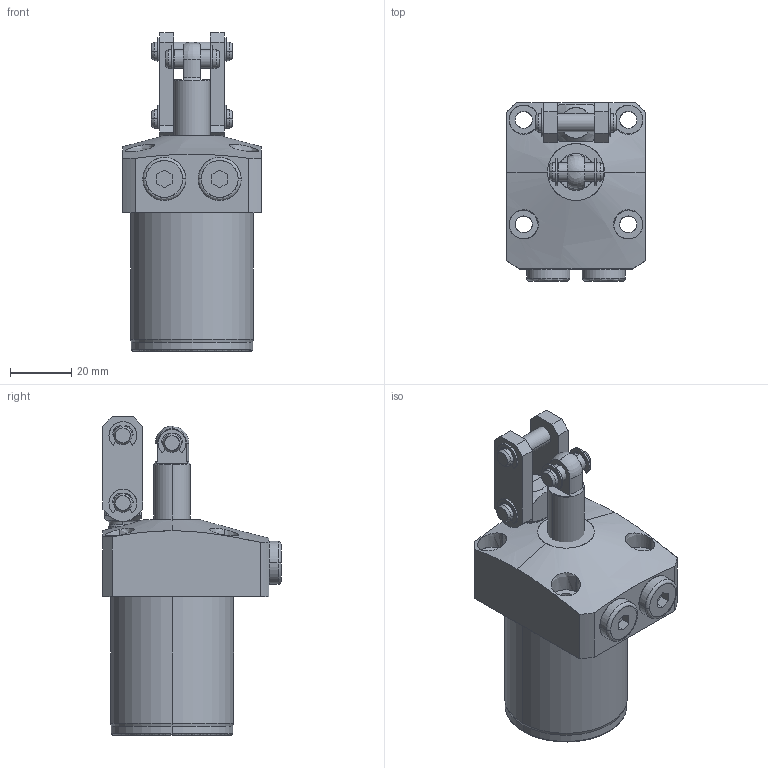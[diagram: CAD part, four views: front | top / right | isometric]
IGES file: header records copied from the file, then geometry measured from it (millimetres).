
Start section: SolidWorks IGES file using analytic representation for surfaces
Global section: file name: C:\Documents and Settings\nijil\My Documents\Clasys1\LQ Series\40\0401-0091.IGS; native system: SolidWorks 2010; preprocessor: SolidWorks 2010; author: nijil; date: 130723.124627; units: millimetre
Bounding box: 45 x 58 x 103.5 mm (x, y, z)
Surface area: 22014.9 mm2 (no closed solid volume)
Topology: 0 solids, 0 shells, 276 faces, 4341 edges, 4334 vertices
Faces by surface type: revolution 152, bspline 124
